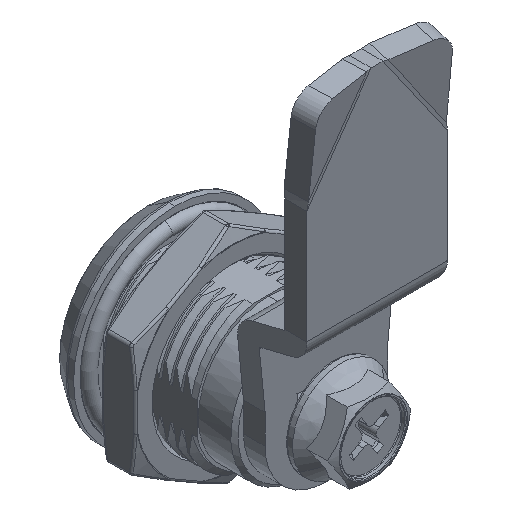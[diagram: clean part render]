
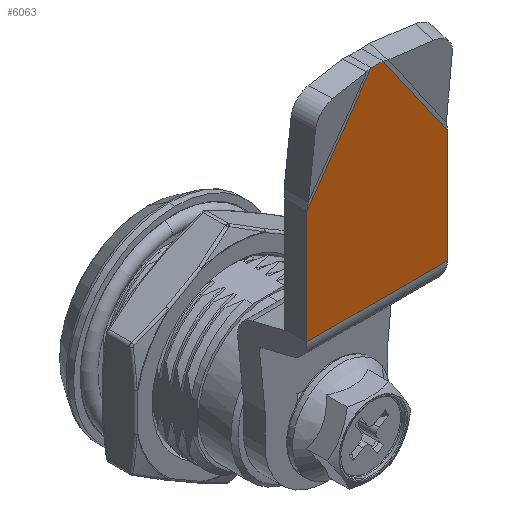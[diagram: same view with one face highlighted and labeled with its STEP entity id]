
A CAD part, isometric view. The second image highlights one B-rep face of the part: STEP entity #6063.
In plain terms, the highlighted planar face has unit normal (0, -1, 0).
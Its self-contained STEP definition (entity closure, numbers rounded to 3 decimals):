
#257 = CARTESIAN_POINT ( 'NONE',  ( 40.806, -3., 3.76 ) ) ;
#1402 = VECTOR ( 'NONE', #28843, 1000. ) ;
#1895 = EDGE_CURVE ( 'NONE', #14092, #3759, #49789, .T. ) ;
#3759 = VERTEX_POINT ( 'NONE', #32451 ) ;
#6063 = ADVANCED_FACE ( 'NONE', ( #29720 ), #25091, .T. ) ;
#8032 = EDGE_CURVE ( 'NONE', #27322, #3759, #35179, .T. ) ;
#9375 = ORIENTED_EDGE ( 'NONE', *, *, #17940, .F. ) ;
#9653 = CARTESIAN_POINT ( 'NONE',  ( 49.968, -3., 2.655 ) ) ;
#10494 = VERTEX_POINT ( 'NONE', #35284 ) ;
#10528 = CARTESIAN_POINT ( 'NONE',  ( 32.252, -3., 9.75 ) ) ;
#12164 = CARTESIAN_POINT ( 'NONE',  ( 45., -3., 9.75 ) ) ;
#12360 = EDGE_CURVE ( 'NONE', #49668, #14092, #44655, .T. ) ;
#12399 = CARTESIAN_POINT ( 'NONE',  ( 16.621, -3., 9.75 ) ) ;
#12812 = CARTESIAN_POINT ( 'NONE',  ( 32.252, -3., -9.75 ) ) ;
#13434 = ORIENTED_EDGE ( 'NONE', *, *, #1895, .T. ) ;
#14092 = VERTEX_POINT ( 'NONE', #34352 ) ;
#14733 = VECTOR ( 'NONE', #26318, 1000. ) ;
#16638 = DIRECTION ( 'NONE',  ( -0.819, 0., 0.574 ) ) ;
#17940 = EDGE_CURVE ( 'NONE', #41760, #27322, #34227, .T. ) ;
#18517 = DIRECTION ( 'NONE',  ( 0., 0., -1. ) ) ;
#20299 = VECTOR ( 'NONE', #16638, 1000. ) ;
#20866 = DIRECTION ( 'NONE',  ( 0., 0., -1. ) ) ;
#22519 = EDGE_CURVE ( 'NONE', #10494, #41760, #30551, .T. ) ;
#24155 = VECTOR ( 'NONE', #20866, 1000. ) ;
#25091 = PLANE ( 'NONE',  #32286 ) ;
#26318 = DIRECTION ( 'NONE',  ( -0.819, 0., -0.574 ) ) ;
#27322 = VERTEX_POINT ( 'NONE', #12812 ) ;
#28809 = CARTESIAN_POINT ( 'NONE',  ( 45., -3., -0.824 ) ) ;
#28843 = DIRECTION ( 'NONE',  ( -1., 0., 0. ) ) ;
#28865 = ORIENTED_EDGE ( 'NONE', *, *, #42367, .T. ) ;
#29720 = FACE_OUTER_BOUND ( 'NONE', #42716, .T. ) ;
#30551 = LINE ( 'NONE', #34624, #40856 ) ;
#32286 = AXIS2_PLACEMENT_3D ( 'NONE', #33017, #45563, #41484 ) ;
#32451 = CARTESIAN_POINT ( 'NONE',  ( 16.621, -3., -9.75 ) ) ;
#33017 = CARTESIAN_POINT ( 'NONE',  ( 45., -3., 9.75 ) ) ;
#34227 = LINE ( 'NONE', #9653, #14733 ) ;
#34352 = CARTESIAN_POINT ( 'NONE',  ( 16.621, -3., 9.75 ) ) ;
#34624 = CARTESIAN_POINT ( 'NONE',  ( 45., -3., 9.75 ) ) ;
#35179 = LINE ( 'NONE', #40097, #46269 ) ;
#35284 = CARTESIAN_POINT ( 'NONE',  ( 45., -3., 0.824 ) ) ;
#37741 = ORIENTED_EDGE ( 'NONE', *, *, #22519, .F. ) ;
#40097 = CARTESIAN_POINT ( 'NONE',  ( 45., -3., -9.75 ) ) ;
#40856 = VECTOR ( 'NONE', #18517, 1000. ) ;
#41484 = DIRECTION ( 'NONE',  ( 1., 0., 0. ) ) ;
#41760 = VERTEX_POINT ( 'NONE', #28809 ) ;
#42367 = EDGE_CURVE ( 'NONE', #10494, #49668, #49384, .T. ) ;
#42716 = EDGE_LOOP ( 'NONE', ( #37741, #28865, #45015, #13434, #53433, #9375 ) ) ;
#44655 = LINE ( 'NONE', #12164, #1402 ) ;
#45015 = ORIENTED_EDGE ( 'NONE', *, *, #12360, .T. ) ;
#45563 = DIRECTION ( 'NONE',  ( 0., -1., 0. ) ) ;
#46269 = VECTOR ( 'NONE', #48531, 1000. ) ;
#48531 = DIRECTION ( 'NONE',  ( -1., 0., 0. ) ) ;
#49384 = LINE ( 'NONE', #257, #20299 ) ;
#49668 = VERTEX_POINT ( 'NONE', #10528 ) ;
#49789 = LINE ( 'NONE', #12399, #24155 ) ;
#53433 = ORIENTED_EDGE ( 'NONE', *, *, #8032, .F. ) ;
